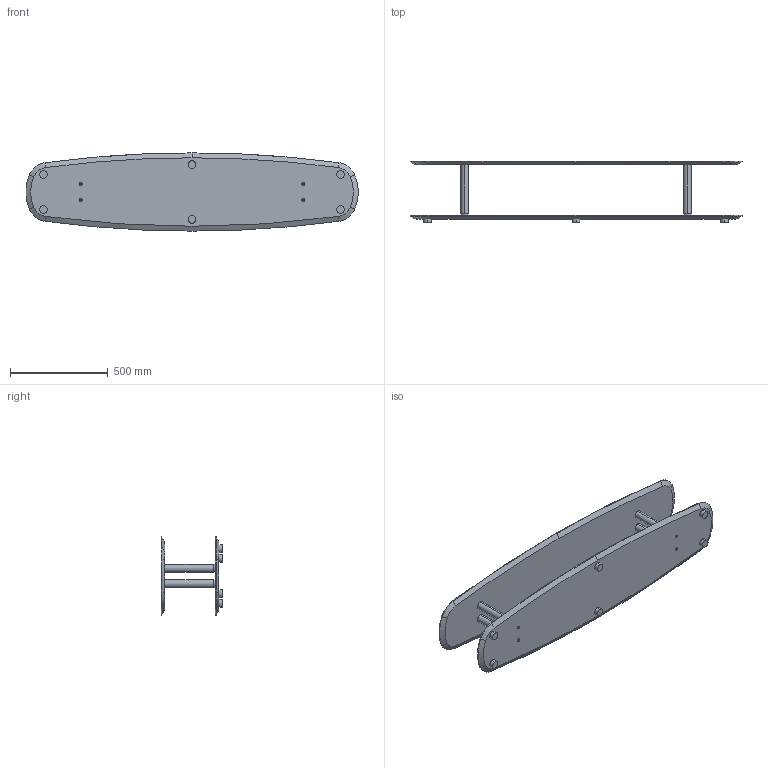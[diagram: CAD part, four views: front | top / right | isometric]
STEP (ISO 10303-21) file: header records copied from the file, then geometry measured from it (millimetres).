
FILE_DESCRIPTION (( 'STEP AP214' ), '1' );
FILE_NAME ('AXIS TABLE.STEP', '2025-07-23T11:22:36', ( '' ), ( '' ), 'SwSTEP 2.0', 'SolidWorks 2016', '' );
FILE_SCHEMA (( 'AUTOMOTIVE_DESIGN' ));
Length unit declared in the file: millimetre
Products named in the file (27): TORNILLO AVELLANADO M10; TRAMO_25_NORMAL; AXIS TABLE; ARANDELA LATÓN 10mm; PATITA; BALDA_MESA_CENTRO_UNICA_SUPERIOR; BALDA_MESA_CENTRO_UNICA_INFERIOR
Assembly tree (20 placements, depth 2):
  TORNILLO AVELLANADO M10
  TRAMO_25_NORMAL
  TRAMO_25_NORMAL
  AXIS TABLE
    BALDA_MESA_CENTRO_UNICA_SUPERIOR
    BALDA_MESA_CENTRO_UNICA_INFERIOR
    PATITA  x6
    ARANDELA LATÓN 10mm  x4
    TRAMO_25_NORMAL  x4
    TORNILLO AVELLANADO M10  x4
  TRAMO_25_NORMAL
Bounding box: 1698.53 x 316 x 400 mm (x, y, z)
Volume: 21597107.5 mm3; surface area: 2644054 mm2
Topology: 20 solids, 20 shells, 208 faces, 432 edges, 268 vertices
Faces by surface type: cylinder 86, plane 72, cone 50
Entity records: 3428 total; most frequent: DIRECTION 594, CARTESIAN_POINT 482, ORIENTED_EDGE 440, AXIS2_PLACEMENT_3D 249, EDGE_CURVE 220, VERTEX_POINT 137, CIRCLE 124, EDGE_LOOP 117
